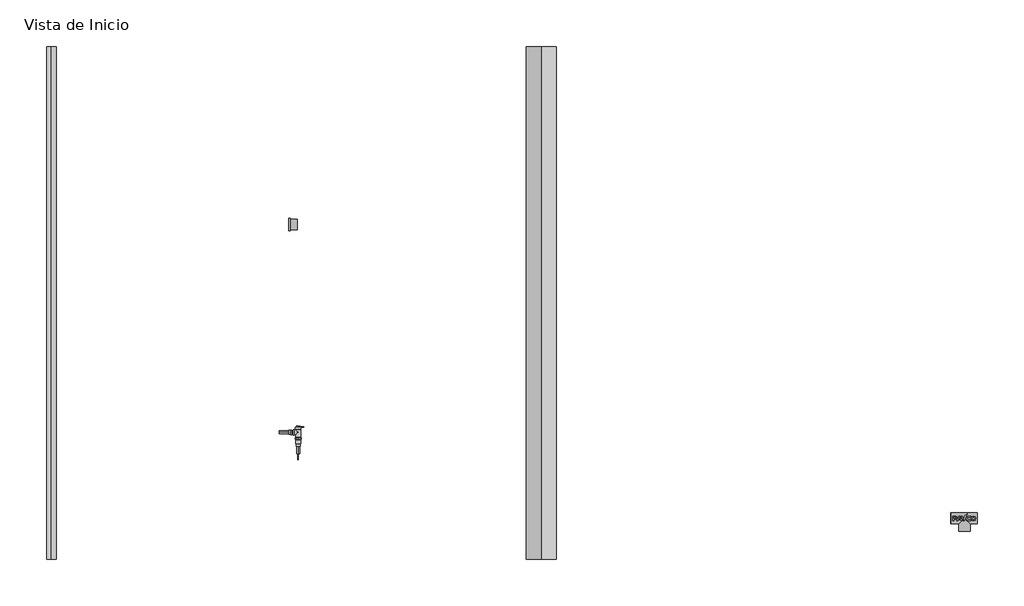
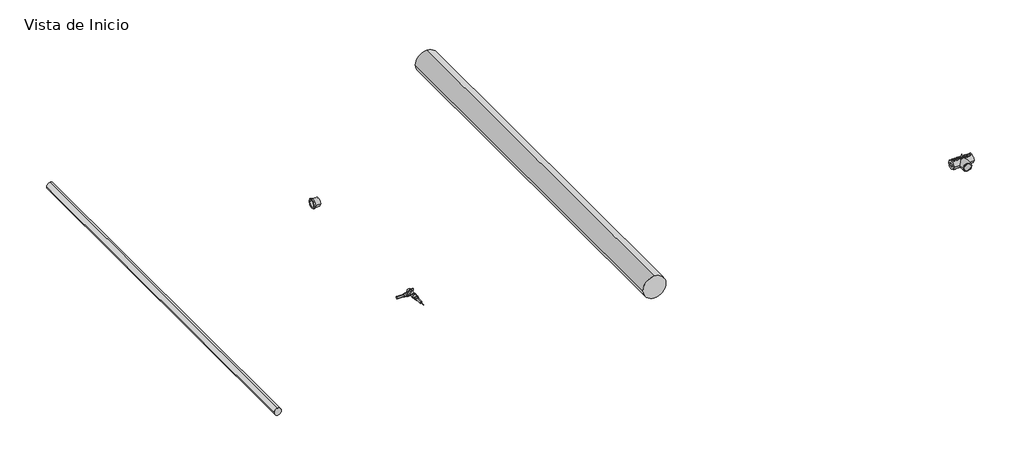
# One storey, incomplete: 6 pipe fittings, 4 pipe segments.
"""IFC4 building model written with IfcOpenShell, lengths in millimetres."""

from ifc_helpers import new_model, si_unit, point, frame, frame_2d, origin, place, context, project, spatial, circle_curve, trimmed, segment, composite_curve, outline, extrude, transform, mapped, element, save
from components import sch40_0889392d, sch40_e6cb78b8, sch40_d8840ade, sch40_3f122158, sch40_77e9e76e, var_9f159643

model = new_model("IFC4")

# Units and contexts
model_context = context("Model", 3, world=origin())
ifc_project = project(units=[si_unit("LENGTHUNIT", "METRE", prefix="MILLI")], contexts=[model_context])

# Site, building, storey
site = spatial("IfcSite", under=ifc_project)
building = spatial("IfcBuilding", under=site)
storey = spatial("IfcBuildingStorey", under=building, Name="Vista de Inicio", Elevation=0.0)

# Pipe fittings
placement = place(None, origin())
sch40_shape = sch40_0889392d(model_context)
element("IfcPipeFitting", 1, ObjectType="PavcoWavin_UnionesDeTuberia_CpvcZNoUsarBuje : SCH40", at=placement, inside=storey, context=model_context, shape_type="MappedRepresentation", body=[
    mapped(sch40_shape, transform((7010.438983, 525.4685847, 0.0), x_axis=(-1.0, 0.0, 0.0), y_axis=(0.0, 1.0, 0.0), z_axis=(0.0, 0.0, -1.0))),
])
sch40_2_shape = sch40_e6cb78b8(model_context)
element("IfcPipeFitting", 2, ObjectType="PavcoWavin_UnionesDeTuberia_CpvcTee : SCH40", at=placement, inside=storey, context=model_context, shape_type="MappedRepresentation", body=[
    mapped(sch40_2_shape, transform((7054.0627031, 525.4685847, 0.0), x_axis=(1.0, 0.0, 0.0), y_axis=(0.0, -1.0, 0.0), z_axis=(0.0, 0.0, -1.0))),
])
sch40_3_shape = sch40_d8840ade(model_context)
element("IfcPipeFitting", 3, ObjectType="PavcoWavin_UnionesDeTuberia_CpvcTransicionIPSxCTS2\" : SCH40", at=placement, inside=storey, context=model_context, shape_type="MappedRepresentation", body=[
    mapped(sch40_3_shape, transform((3302.758268, 2176.6622626, 0.0), x_axis=(1.0, 0.0, 0.0), y_axis=(0.0, 1.0, 0.0), z_axis=(0.0, 0.0, 1.0))),
])
sch40_4_shape = sch40_3f122158(model_context)
element("IfcPipeFitting", 4, ObjectType="PavcoWavin_UnionesDeTuberia_CpvcZNoUsarTransiciónMetal : SCH40", at=placement, inside=storey, context=model_context, shape_type="MappedRepresentation", body=[
    mapped(sch40_4_shape, transform((3310.1061879, 947.3322316, 0.0), x_axis=(0.0, 1.0, 0.0), y_axis=(-1.0, 0.0, 0.0), z_axis=(0.0, 0.0, 1.0))),
])
sch40_5_shape = sch40_77e9e76e(model_context)
element("IfcPipeFitting", 5, ObjectType="PavcoWavin_UnionesDeTuberia_CpvcZNoUsarAdaptadorMacho : SCH40", at=placement, inside=storey, context=model_context, shape_type="MappedRepresentation", body=[
    mapped(sch40_5_shape, transform((3281.9761879, 1007.9136432, 0.0), x_axis=(-1.0, 0.0, 0.0), y_axis=(0.0, -1.0, 0.0), z_axis=(0.0, 0.0, 1.0))),
])
var_shape = var_9f159643(model_context)
element("IfcPipeFitting", 6, ObjectType="PavcoWavin_UnionesDeTuberia_CpvcValvulaDeAlivio_de1/2\" : Var.", at=placement, inside=storey, context=model_context, shape_type="MappedRepresentation", body=[
    mapped(var_shape, transform((3310.1061879, 1007.9136432, 0.0), x_axis=(0.0, 1.0, 0.0), y_axis=(-1.0, 0.0, 0.0), z_axis=(0.0, 0.0, 1.0))),
])

# Pipe segments
element("IfcPipeSegment", 7, ObjectType="PavcoWavin_Tuberias_CpvcHOTPRO_de½\"a1\"(3m)yDe1¼\"a2\"(6m)", at=placement, inside=storey, context=model_context, shape_type="SweptSolid", body=[
    extrude(outline(composite_curve([segment(trimmed(circle_curve(frame_2d((0.0, 1923.1185626)), 26.9875), [point((0.0, 1950.1060626))], [point((26.9875, 1923.1185626))], False, "CARTESIAN"), True, "CONTINUOUS"), segment(trimmed(circle_curve(frame_2d((0.0, 1923.1185626)), 26.9875), [point((26.9875, 1923.1185626))], [point((0.0, 1896.1310626))], False, "CARTESIAN"), True, "CONTINUOUS"), segment(trimmed(circle_curve(frame_2d((0.0, 1923.1185626)), 26.9875), [point((0.0, 1896.1310626))], [point((-26.9875, 1923.1185626))], False, "CARTESIAN"), True, "CONTINUOUS"), segment(trimmed(circle_curve(frame_2d((0.0, 1923.1185626)), 26.9875), [point((-26.9875, 1923.1185626))], [point((0.0, 1950.1060626))], False, "CARTESIAN"), True, "CONTINUOUS")], self_intersect=False)), frame((0.0, 296.08733, 0.0), z_axis=(0.0, 1.0, 0.0), x_axis=(0.0, 0.0, 1.0)), (0.0, 0.0, 1.0), 2880.0),
])
element("IfcPipeSegment", 8, ObjectType="PavcoWavin_Tuberias_CpvcSCH80_de½\"a6\"(5.795m)", at=placement, inside=storey, context=model_context, shape_type="SweptSolid", body=[
    extrude(outline(composite_curve([segment(trimmed(circle_curve(frame_2d((0.0, 4675.9561767)), 84.1375), [point((0.0, 4591.8186767))], [point((-84.1375, 4675.9561767))], False, "CARTESIAN"), True, "CONTINUOUS"), segment(trimmed(circle_curve(frame_2d((0.0, 4675.9561767)), 84.1375), [point((-84.1375, 4675.9561767))], [point((0.0, 4760.0936767))], False, "CARTESIAN"), True, "CONTINUOUS"), segment(trimmed(circle_curve(frame_2d((0.0, 4675.9561767)), 84.1375), [point((0.0, 4760.0936767))], [point((84.1375, 4675.9561767))], False, "CARTESIAN"), True, "CONTINUOUS"), segment(trimmed(circle_curve(frame_2d((0.0, 4675.9561767)), 84.1375), [point((84.1375, 4675.9561767))], [point((0.0, 4591.8186767))], False, "CARTESIAN"), True, "CONTINUOUS")], self_intersect=False)), frame((0.0, 296.08733, 0.0), z_axis=(0.0, 1.0, 0.0), x_axis=(0.0, 0.0, 1.0)), (0.0, 0.0, 1.0), 2880.0),
])
element("IfcPipeSegment", 9, ObjectType="PavcoWavin_Tuberias_CpvcHOTPRO_de½\"a1\"(3m)yDe1¼\"a2\"(6m)", at=placement, inside=storey, context=model_context, shape_type="SweptSolid", body=[
    extrude(outline(composite_curve([segment(trimmed(circle_curve(frame_2d((1007.9136432, 0.0)), 7.9375), [point((1015.8511432, 0.0))], [point((1007.9136432, -7.9375))], False, "CARTESIAN"), True, "CONTINUOUS"), segment(trimmed(circle_curve(frame_2d((1007.9136432, 0.0)), 7.9375), [point((1007.9136432, -7.9375))], [point((999.9761432, 0.0))], False, "CARTESIAN"), True, "CONTINUOUS"), segment(trimmed(circle_curve(frame_2d((1007.9136432, 0.0)), 7.9375), [point((999.9761432, 0.0))], [point((1007.9136432, 7.9375))], False, "CARTESIAN"), True, "CONTINUOUS"), segment(trimmed(circle_curve(frame_2d((1007.9136432, 0.0)), 7.9375), [point((1007.9136432, 7.9375))], [point((1015.8511432, 0.0))], False, "CARTESIAN"), True, "CONTINUOUS")], self_intersect=False)), frame((3205.1061879, 0.0, 0.0), z_axis=(1.0, 0.0, 0.0), x_axis=(0.0, 1.0, 0.0)), (0.0, 0.0, 1.0), 63.74),
])
element("IfcPipeSegment", 10, ObjectType="PavcoWavin_Tuberias_CpvcHOTPRO_de½\"a1\"(3m)yDe1¼\"a2\"(6m)", at=placement, inside=storey, context=model_context, shape_type="SweptSolid", body=[
    extrude(outline(composite_curve([segment(trimmed(circle_curve(frame_2d((0.0, 3310.1061879)), 7.9375), [point((0.0, 3302.1686879))], [point((-7.9375, 3310.1061879))], False, "CARTESIAN"), True, "CONTINUOUS"), segment(trimmed(circle_curve(frame_2d((0.0, 3310.1061879)), 7.9375), [point((-7.9375, 3310.1061879))], [point((0.0, 3318.0436879))], False, "CARTESIAN"), True, "CONTINUOUS"), segment(trimmed(circle_curve(frame_2d((0.0, 3310.1061879)), 7.9375), [point((0.0, 3318.0436879))], [point((7.9375, 3310.1061879))], False, "CARTESIAN"), True, "CONTINUOUS"), segment(trimmed(circle_curve(frame_2d((0.0, 3310.1061879)), 7.9375), [point((7.9375, 3310.1061879))], [point((0.0, 3302.1686879))], False, "CARTESIAN"), True, "CONTINUOUS")], self_intersect=False)), frame((0.0, 887.9435742, 0.0), z_axis=(0.0, 1.0, 0.0), x_axis=(0.0, 0.0, 1.0)), (0.0, 0.0, 1.0), 54.820069),
])

save(model, "model.ifc")
